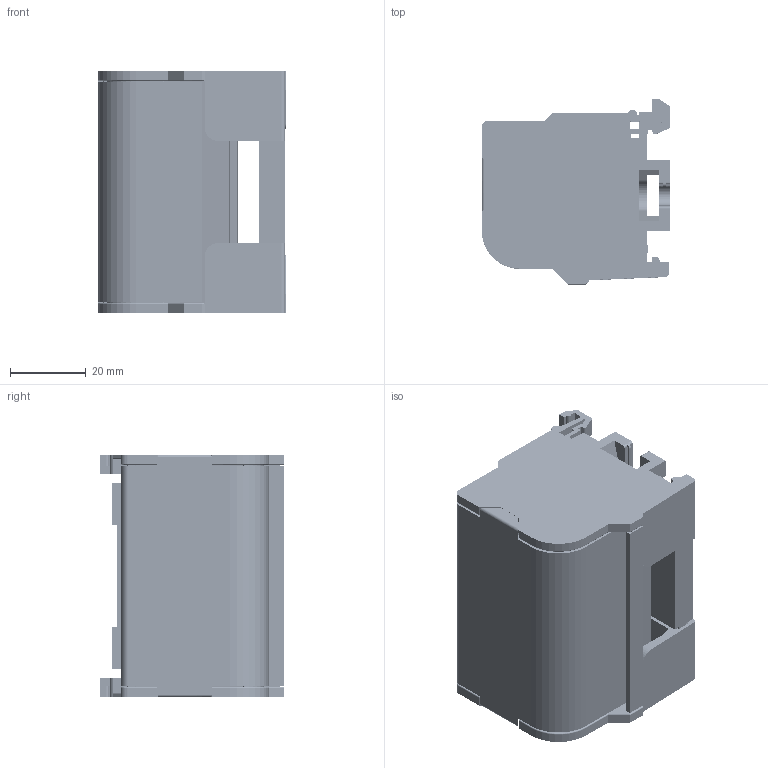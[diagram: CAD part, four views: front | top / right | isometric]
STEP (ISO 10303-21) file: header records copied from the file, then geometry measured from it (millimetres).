
FILE_DESCRIPTION(/* description */ (''),/* implementation_level */ '2;1');
FILE_NAME(/* name */ 'x_stp.stp',/* time_stamp */ '2021-12-02T12:38:25+08:00',/* author */ (''),/* organization */ (''),/* preprocessor_version */ 'ST-DEVELOPER v16',/* originating_system */ 'SIEMENS PLM Software NX 10.0',/* authorisation */ '');
FILE_SCHEMA (('AUTOMOTIVE_DESIGN { 1 0 10303 214 3 1 1 1 }'));
Products named in the file (1): Admi2FB02F8Dgxtb
Bounding box: 49.8 x 48.7 x 64 mm (x, y, z)
Volume: 39351.4 mm3; surface area: 47566.1 mm2
Topology: 22 solids, 22 shells, 1459 faces, 3952 edges, 2536 vertices
Faces by surface type: plane 817, cylinder 336, bspline 170, cone 56, torus 54, sphere 26
Full cylindrical faces by diameter (mm): 4.4 x6, 5.2 x4, 5.4 x6, 6.8 x14, 8.6 x2
Entity records: 150179 total; most frequent: CARTESIAN_POINT 115812, ORIENTED_EDGE 7610, DIRECTION 6077, EDGE_CURVE 3805, VERTEX_POINT 2492, LINE 2223, VECTOR 2223, AXIS2_PLACEMENT_3D 1927
